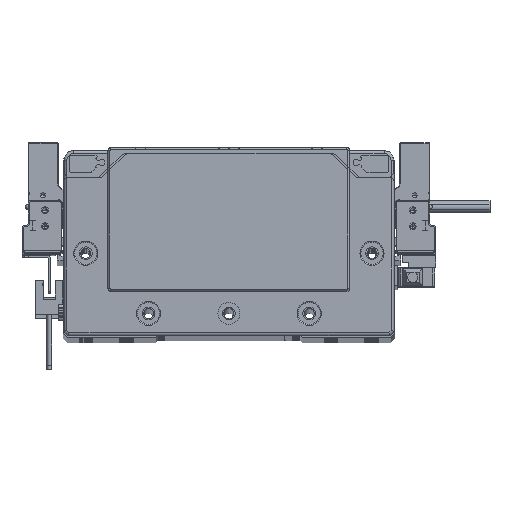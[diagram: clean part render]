
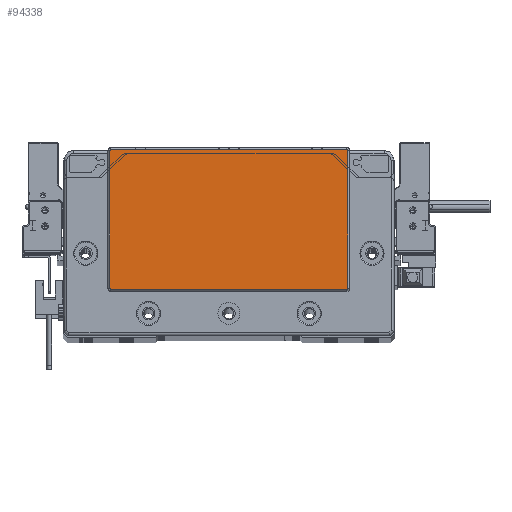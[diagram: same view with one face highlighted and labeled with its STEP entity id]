
A CAD part, top view. The second image highlights one B-rep face of the part: STEP entity #94338.
In plain terms, the highlighted planar face has unit normal (0, 0, 1) as drawn and (0, 0, -1) by its records, which use the part's own axes.
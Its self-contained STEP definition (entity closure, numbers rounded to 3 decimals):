
#1669 = VERTEX_POINT ( 'NONE', #23417 ) ;
#2444 = CIRCLE ( 'NONE', #8024, 0.5 ) ;
#3822 = CARTESIAN_POINT ( 'NONE',  ( -58.75, 45.3, -2. ) ) ;
#4515 = DIRECTION ( 'NONE',  ( -1., 0., 0. ) ) ;
#6399 = AXIS2_PLACEMENT_3D ( 'NONE', #43542, #113284, #68584 ) ;
#6479 = DIRECTION ( 'NONE',  ( -1., 0., 0. ) ) ;
#7421 = DIRECTION ( 'NONE',  ( -1., 0., 0. ) ) ;
#8024 = AXIS2_PLACEMENT_3D ( 'NONE', #87551, #86970, #7421 ) ;
#12677 = CARTESIAN_POINT ( 'NONE',  ( 59.25, -23.3, -2. ) ) ;
#13115 = DIRECTION ( 'NONE',  ( 0., 0., -1. ) ) ;
#14623 = LINE ( 'NONE', #112744, #45597 ) ;
#15437 = ORIENTED_EDGE ( 'NONE', *, *, #104990, .T. ) ;
#15905 = EDGE_CURVE ( 'NONE', #30874, #76631, #52843, .T. ) ;
#17452 = LINE ( 'NONE', #113259, #79789 ) ;
#19526 = VERTEX_POINT ( 'NONE', #73569 ) ;
#20271 = AXIS2_PLACEMENT_3D ( 'NONE', #37425, #55428, #109433 ) ;
#23417 = CARTESIAN_POINT ( 'NONE',  ( 58.75, -23.8, -2. ) ) ;
#24906 = VERTEX_POINT ( 'NONE', #98761 ) ;
#26213 = VERTEX_POINT ( 'NONE', #95212 ) ;
#26575 = EDGE_CURVE ( 'NONE', #24906, #83232, #67448, .T. ) ;
#30432 = FACE_OUTER_BOUND ( 'NONE', #111057, .T. ) ;
#30874 = VERTEX_POINT ( 'NONE', #82535 ) ;
#33459 = DIRECTION ( 'NONE',  ( 0., 1., 0. ) ) ;
#35752 = EDGE_CURVE ( 'NONE', #26213, #1669, #2444, .T. ) ;
#37425 = CARTESIAN_POINT ( 'NONE',  ( 0., 0., -2. ) ) ;
#38156 = LINE ( 'NONE', #73605, #82015 ) ;
#43542 = CARTESIAN_POINT ( 'NONE',  ( -58.75, -23.3, -2. ) ) ;
#45597 = VECTOR ( 'NONE', #6479, 1000. ) ;
#48605 = CARTESIAN_POINT ( 'NONE',  ( 58.75, 45.3, -2. ) ) ;
#51658 = DIRECTION ( 'NONE',  ( 1., 0., 0. ) ) ;
#51723 = VECTOR ( 'NONE', #109083, 1000. ) ;
#52843 = CIRCLE ( 'NONE', #62171, 0.5 ) ;
#54141 = ORIENTED_EDGE ( 'NONE', *, *, #35752, .T. ) ;
#55428 = DIRECTION ( 'NONE',  ( 0., 0., -1. ) ) ;
#60660 = CARTESIAN_POINT ( 'NONE',  ( -58.75, -23.8, -2. ) ) ;
#61408 = ORIENTED_EDGE ( 'NONE', *, *, #26575, .T. ) ;
#62171 = AXIS2_PLACEMENT_3D ( 'NONE', #3822, #13115, #102543 ) ;
#63662 = ORIENTED_EDGE ( 'NONE', *, *, #91330, .T. ) ;
#65611 = ORIENTED_EDGE ( 'NONE', *, *, #94089, .T. ) ;
#67448 = CIRCLE ( 'NONE', #85995, 0.5 ) ;
#68314 = ORIENTED_EDGE ( 'NONE', *, *, #112396, .T. ) ;
#68584 = DIRECTION ( 'NONE',  ( -1., 0., 0. ) ) ;
#73569 = CARTESIAN_POINT ( 'NONE',  ( -59.25, -23.3, -2. ) ) ;
#73605 = CARTESIAN_POINT ( 'NONE',  ( -59.25, 45.3, -2. ) ) ;
#74910 = ORIENTED_EDGE ( 'NONE', *, *, #15905, .T. ) ;
#76631 = VERTEX_POINT ( 'NONE', #78818 ) ;
#78818 = CARTESIAN_POINT ( 'NONE',  ( -58.75, 45.8, -2. ) ) ;
#79789 = VECTOR ( 'NONE', #51658, 1000. ) ;
#80137 = CARTESIAN_POINT ( 'NONE',  ( 59.25, 45.3, -2. ) ) ;
#82015 = VECTOR ( 'NONE', #33459, 1000. ) ;
#82535 = CARTESIAN_POINT ( 'NONE',  ( -59.25, 45.3, -2. ) ) ;
#83161 = EDGE_CURVE ( 'NONE', #76631, #24906, #17452, .T. ) ;
#83232 = VERTEX_POINT ( 'NONE', #80137 ) ;
#84074 = DIRECTION ( 'NONE',  ( 0., 0., -1. ) ) ;
#84224 = CIRCLE ( 'NONE', #6399, 0.5 ) ;
#85995 = AXIS2_PLACEMENT_3D ( 'NONE', #48605, #84074, #4515 ) ;
#86970 = DIRECTION ( 'NONE',  ( 0., 0., -1. ) ) ;
#87551 = CARTESIAN_POINT ( 'NONE',  ( 58.75, -23.3, -2. ) ) ;
#88158 = ORIENTED_EDGE ( 'NONE', *, *, #83161, .T. ) ;
#91330 = EDGE_CURVE ( 'NONE', #1669, #93620, #14623, .T. ) ;
#93620 = VERTEX_POINT ( 'NONE', #60660 ) ;
#94089 = EDGE_CURVE ( 'NONE', #83232, #26213, #110211, .T. ) ;
#94338 = ADVANCED_FACE ( 'NONE', ( #30432 ), #107719, .T. ) ;
#95212 = CARTESIAN_POINT ( 'NONE',  ( 59.25, -23.3, -2. ) ) ;
#98761 = CARTESIAN_POINT ( 'NONE',  ( 58.75, 45.8, -2. ) ) ;
#102543 = DIRECTION ( 'NONE',  ( -1., 0., 0. ) ) ;
#104990 = EDGE_CURVE ( 'NONE', #19526, #30874, #38156, .T. ) ;
#107719 = PLANE ( 'NONE',  #20271 ) ;
#109083 = DIRECTION ( 'NONE',  ( 0., -1., 0. ) ) ;
#109433 = DIRECTION ( 'NONE',  ( -1., 0., 0. ) ) ;
#110211 = LINE ( 'NONE', #12677, #51723 ) ;
#111057 = EDGE_LOOP ( 'NONE', ( #65611, #54141, #63662, #68314, #15437, #74910, #88158, #61408 ) ) ;
#112396 = EDGE_CURVE ( 'NONE', #93620, #19526, #84224, .T. ) ;
#112744 = CARTESIAN_POINT ( 'NONE',  ( -58.75, -23.8, -2. ) ) ;
#113259 = CARTESIAN_POINT ( 'NONE',  ( 58.75, 45.8, -2. ) ) ;
#113284 = DIRECTION ( 'NONE',  ( 0., 0., -1. ) ) ;
